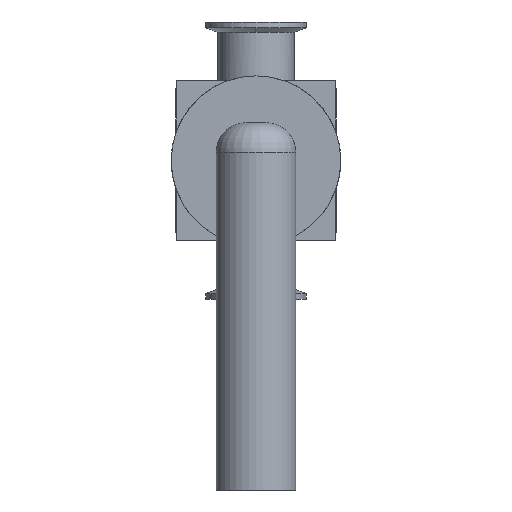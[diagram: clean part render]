
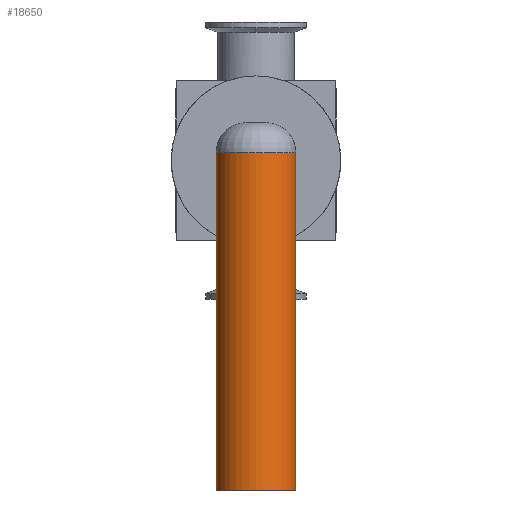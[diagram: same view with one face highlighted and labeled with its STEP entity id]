
A CAD part, front view. The second image highlights one B-rep face of the part: STEP entity #18650.
In plain terms, the highlighted cylindrical face has radius 20 mm (diameter 40 mm), a partial arc.
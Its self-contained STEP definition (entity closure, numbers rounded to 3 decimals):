
#17710=CARTESIAN_POINT('',(4.,-58.,-20.));
#17720=VERTEX_POINT('',#17710);
#17750=CARTESIAN_POINT('',(4.,-58.,0.));
#17760=DIRECTION('',(-1.,0.,0.));
#17770=DIRECTION('',(0.,1.,0.));
#17780=AXIS2_PLACEMENT_3D('',#17750,#17760,#17770);
#17790=CIRCLE('',#17780,20.);
#17800=CARTESIAN_POINT('',(4.,-58.,20.));
#17810=VERTEX_POINT('',#17800);
#17820=EDGE_CURVE('',#17720,#17810,#17790,.T.);
#18080=CARTESIAN_POINT('',(-165.,-58.,0.));
#18090=DIRECTION('',(-1.,0.,0.));
#18100=DIRECTION('',(0.,0.,-1.));
#18110=AXIS2_PLACEMENT_3D('',#18080,#18090,#18100);
#18120=CIRCLE('',#18110,20.);
#18130=CARTESIAN_POINT('',(-165.,-58.,-20.));
#18140=VERTEX_POINT('',#18130);
#18150=CARTESIAN_POINT('',(-165.,-58.,20.));
#18160=VERTEX_POINT('',#18150);
#18170=EDGE_CURVE('',#18140,#18160,#18120,.T.);
#18280=CARTESIAN_POINT('',(-19.,-58.,0.));
#18290=DIRECTION('',(-1.,0.,0.));
#18300=DIRECTION('',(0.,0.,-1.));
#18310=AXIS2_PLACEMENT_3D('',#18280,#18290,#18300);
#18320=CYLINDRICAL_SURFACE('',#18310,20.);
#18330=ORIENTED_EDGE('',*,*,#17820,.T.);
#18340=CARTESIAN_POINT('',(-19.,-58.,-20.));
#18350=DIRECTION('',(-1.,0.,0.));
#18360=VECTOR('',#18350,1.);
#18370=LINE('',#18340,#18360);
#18380=CARTESIAN_POINT('',(-99.,-58.,-20.));
#18390=VERTEX_POINT('',#18380);
#18400=EDGE_CURVE('',#17720,#18390,#18370,.T.);
#18410=ORIENTED_EDGE('',*,*,#18400,.F.);
#18420=CARTESIAN_POINT('',(-19.,-58.,-20.));
#18430=DIRECTION('',(-1.,0.,0.));
#18440=VECTOR('',#18430,1.);
#18450=LINE('',#18420,#18440);
#18460=EDGE_CURVE('',#18390,#18140,#18450,.T.);
#18470=ORIENTED_EDGE('',*,*,#18460,.F.);
#18480=ORIENTED_EDGE('',*,*,#18170,.F.);
#18490=CARTESIAN_POINT('',(-19.,-58.,20.));
#18500=DIRECTION('',(-1.,0.,0.));
#18510=VECTOR('',#18500,1.);
#18520=LINE('',#18490,#18510);
#18530=CARTESIAN_POINT('',(-99.,-58.,20.));
#18540=VERTEX_POINT('',#18530);
#18550=EDGE_CURVE('',#18540,#18160,#18520,.T.);
#18560=ORIENTED_EDGE('',*,*,#18550,.T.);
#18570=CARTESIAN_POINT('',(-19.,-58.,20.));
#18580=DIRECTION('',(-1.,0.,0.));
#18590=VECTOR('',#18580,1.);
#18600=LINE('',#18570,#18590);
#18610=EDGE_CURVE('',#17810,#18540,#18600,.T.);
#18620=ORIENTED_EDGE('',*,*,#18610,.T.);
#18630=EDGE_LOOP('',(#18620,#18560,#18480,#18470,#18410,#18330));
#18640=FACE_OUTER_BOUND('',#18630,.T.);
#18650=ADVANCED_FACE('',(#18640),#18320,.T.);
